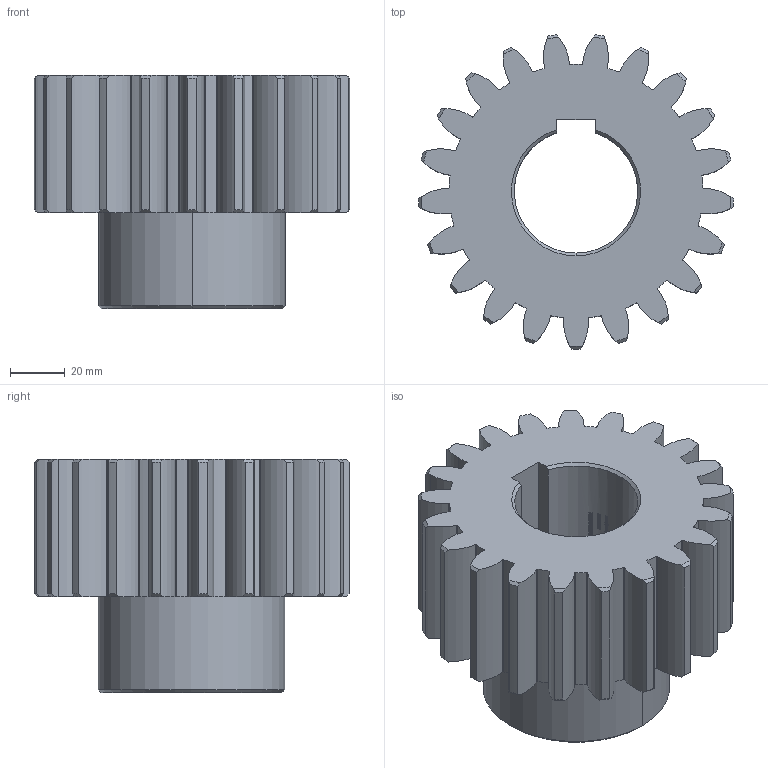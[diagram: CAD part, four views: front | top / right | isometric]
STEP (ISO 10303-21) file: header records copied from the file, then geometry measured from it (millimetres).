
FILE_DESCRIPTION (( 'STEP AP214' ), '1' );
FILE_NAME ('5M-21-45.step', '2021-12-07T05:49:57', ( 'IT Division' ), ( 'IT' ), 'SwSTEP 2.0', 'SolidWorks 2016', '' );
FILE_SCHEMA (( 'AUTOMOTIVE_DESIGN' ));
Length unit declared in the file: millimetre
Products named in the file (1): 5M-21-45
Bounding box: 114.87 x 114.57 x 85 mm (x, y, z)
Volume: 411281.4 mm3; surface area: 66972.6 mm2
Topology: 1 solids, 1 shells, 366 faces, 2389 edges, 2192 vertices
Faces by surface type: cylinder 312, cone 48, plane 6
Entity records: 30437 total; most frequent: CARTESIAN_POINT 13674, ORIENTED_EDGE 4778, EDGE_CURVE 2389, DIRECTION 2307, VERTEX_POINT 2192, AXIS2_PLACEMENT_3D 909, B_SPLINE_CURVE_WITH_KNOTS 828, CIRCLE 542
